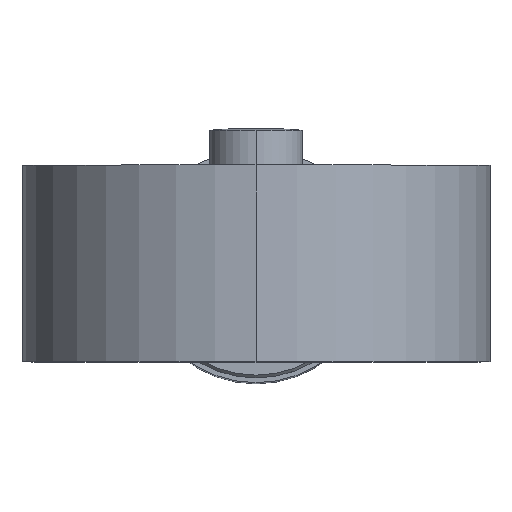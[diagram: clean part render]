
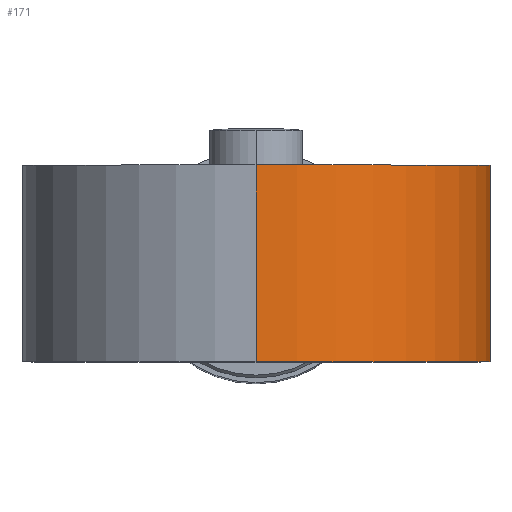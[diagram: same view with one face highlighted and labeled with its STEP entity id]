
A CAD part, top view. The second image highlights one B-rep face of the part: STEP entity #171.
In plain terms, the highlighted cylindrical face has radius 25 mm (diameter 50 mm), a partial arc.
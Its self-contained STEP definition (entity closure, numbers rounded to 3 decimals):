
#171=ADVANCED_FACE('',(#343),#344,.T.);
#343=FACE_OUTER_BOUND('',#709,.T.);
#344=CYLINDRICAL_SURFACE('',#710,25.0);
#709=EDGE_LOOP('',(#1075,#1076,#1077,#1078));
#710=AXIS2_PLACEMENT_3D('',#1079,#1080,#1081);
#1075=ORIENTED_EDGE('',*,*,#2330,.T.);
#1076=ORIENTED_EDGE('',*,*,#2331,.T.);
#1077=ORIENTED_EDGE('',*,*,#2332,.T.);
#1078=ORIENTED_EDGE('',*,*,#2333,.F.);
#1079=CARTESIAN_POINT('',(0.0,0.,161.0));
#1080=DIRECTION('',(0.0,1.0,0.0));
#1081=DIRECTION('',(0.0,0.0,1.0));
#2330=EDGE_CURVE('',#2701,#2702,#2703,.T.);
#2331=EDGE_CURVE('',#2702,#2704,#2705,.T.);
#2332=EDGE_CURVE('',#2704,#2706,#2707,.T.);
#2333=EDGE_CURVE('',#2701,#2706,#2708,.T.);
#2701=VERTEX_POINT('',#3302);
#2702=VERTEX_POINT('',#3303);
#2703=CIRCLE('',#3304,25.0);
#2704=VERTEX_POINT('',#3305);
#2705=LINE('',#3306,#3307);
#2706=VERTEX_POINT('',#3308);
#2707=CIRCLE('',#3309,25.0);
#2708=LINE('',#3310,#3311);
#3302=CARTESIAN_POINT('',(0.0,-10.5,186.0));
#3303=CARTESIAN_POINT('',(0.,-10.5,136.0));
#3304=AXIS2_PLACEMENT_3D('',#4261,#4262,#4263);
#3305=CARTESIAN_POINT('',(0.,10.5,136.0));
#3306=CARTESIAN_POINT('',(0.,0.,136.0));
#3307=VECTOR('',#4264,1000.0);
#3308=CARTESIAN_POINT('',(0.0,10.5,186.0));
#3309=AXIS2_PLACEMENT_3D('',#4265,#4266,#4267);
#3310=CARTESIAN_POINT('',(0.0,0.,186.0));
#3311=VECTOR('',#4268,1000.0);
#4261=CARTESIAN_POINT('',(0.0,-10.5,161.0));
#4262=DIRECTION('',(0.0,1.0,0.0));
#4263=DIRECTION('',(0.0,0.0,1.0));
#4264=DIRECTION('',(0.0,1.0,0.0));
#4265=CARTESIAN_POINT('',(0.0,10.5,161.0));
#4266=DIRECTION('',(0.0,-1.0,0.0));
#4267=DIRECTION('',(0.0,0.0,1.0));
#4268=DIRECTION('',(0.0,1.0,0.0));
